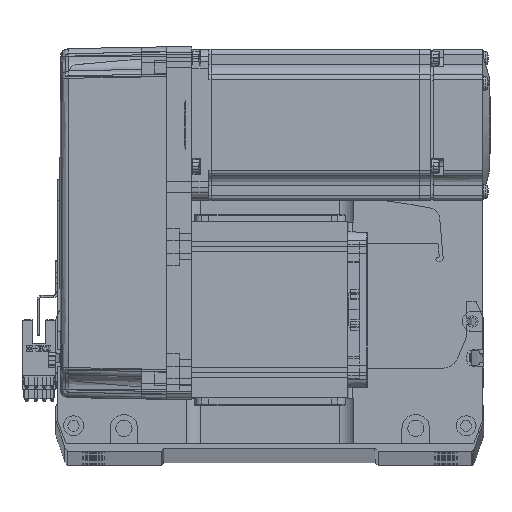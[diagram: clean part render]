
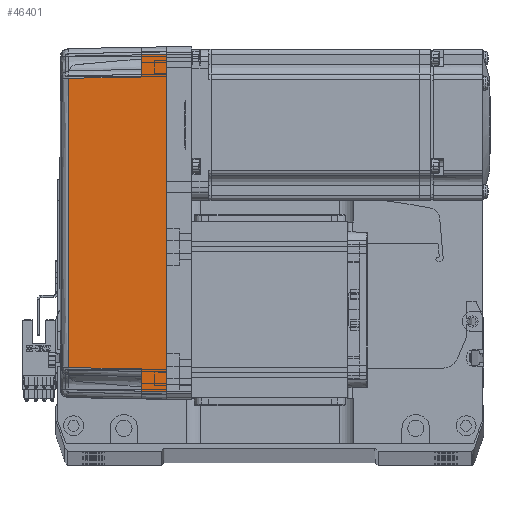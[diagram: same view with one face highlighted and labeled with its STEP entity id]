
A CAD part, top view. The second image highlights one B-rep face of the part: STEP entity #46401.
In plain terms, the highlighted planar face has unit normal (-0.018, 0, 1) as drawn and (0, 1, 0.017) by its records, which use the part's own axes.
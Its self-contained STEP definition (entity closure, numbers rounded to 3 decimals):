
#248 = CARTESIAN_POINT ( 'NONE',  ( -58., 35.825, 10. ) ) ;
#359 = VECTOR ( 'NONE', #30537, 1000. ) ;
#636 = VECTOR ( 'NONE', #17200, 1000. ) ;
#1147 = LINE ( 'NONE', #35178, #21853 ) ;
#7610 = DIRECTION ( 'NONE',  ( 0., 1., 0.017 ) ) ;
#8133 = VERTEX_POINT ( 'NONE', #52490 ) ;
#8681 = EDGE_LOOP ( 'NONE', ( #67156, #31544, #53689, #51427, #59297, #39355, #69633, #66362 ) ) ;
#8823 = CARTESIAN_POINT ( 'NONE',  ( 67.001, 36.001, -0.052 ) ) ;
#9792 = EDGE_CURVE ( 'NONE', #66177, #44427, #67448, .T. ) ;
#11372 = EDGE_CURVE ( 'NONE', #48660, #67683, #50978, .T. ) ;
#12010 = VECTOR ( 'NONE', #28049, 1000. ) ;
#12292 = EDGE_CURVE ( 'NONE', #67683, #66177, #56811, .T. ) ;
#12449 = CARTESIAN_POINT ( 'NONE',  ( 57.495, 35.32, 38.985 ) ) ;
#12965 = VECTOR ( 'NONE', #13341, 1000. ) ;
#13341 = DIRECTION ( 'NONE',  ( 0.017, 0.017, -1. ) ) ;
#13819 = EDGE_CURVE ( 'NONE', #34046, #67483, #53294, .T. ) ;
#15098 = LINE ( 'NONE', #8823, #71389 ) ;
#15273 = VERTEX_POINT ( 'NONE', #32347 ) ;
#16532 = CARTESIAN_POINT ( 'NONE',  ( -67., 36., 0. ) ) ;
#17200 = DIRECTION ( 'NONE',  ( 1., 0., 0. ) ) ;
#21853 = VECTOR ( 'NONE', #45873, 1000. ) ;
#23775 = CARTESIAN_POINT ( 'NONE',  ( 0., 36., 0. ) ) ;
#24552 = LINE ( 'NONE', #23775, #359 ) ;
#24803 = CARTESIAN_POINT ( 'NONE',  ( -57.495, 35.32, 38.985 ) ) ;
#25156 = CARTESIAN_POINT ( 'NONE',  ( 57.495, 35.32, 38.985 ) ) ;
#26394 = CARTESIAN_POINT ( 'NONE',  ( 57.495, 35.32, 38.985 ) ) ;
#28049 = DIRECTION ( 'NONE',  ( 0.017, -0.017, 1. ) ) ;
#29120 = AXIS2_PLACEMENT_3D ( 'NONE', #62507, #7610, #51658 ) ;
#30404 = EDGE_CURVE ( 'NONE', #67483, #48660, #1147, .T. ) ;
#30537 = DIRECTION ( 'NONE',  ( 1., 0., 0. ) ) ;
#31426 = CARTESIAN_POINT ( 'NONE',  ( -19.165, 35.316, 39.181 ) ) ;
#31544 = ORIENTED_EDGE ( 'NONE', *, *, #30404, .T. ) ;
#32347 = CARTESIAN_POINT ( 'NONE',  ( 66.826, 35.825, 10. ) ) ;
#34046 = VERTEX_POINT ( 'NONE', #58719 ) ;
#34553 = EDGE_CURVE ( 'NONE', #8133, #15273, #15098, .T. ) ;
#35178 = CARTESIAN_POINT ( 'NONE',  ( 70., 35.825, 10. ) ) ;
#36343 = DIRECTION ( 'NONE',  ( -0.017, -0.017, 1. ) ) ;
#39355 = ORIENTED_EDGE ( 'NONE', *, *, #66647, .T. ) ;
#39711 = DIRECTION ( 'NONE',  ( 0.017, -0.017, 1. ) ) ;
#43867 = LINE ( 'NONE', #61507, #636 ) ;
#44427 = VERTEX_POINT ( 'NONE', #46044 ) ;
#45873 = DIRECTION ( 'NONE',  ( 1., 0., 0. ) ) ;
#46044 = CARTESIAN_POINT ( 'NONE',  ( 58., 35.825, 10. ) ) ;
#46401 = ADVANCED_FACE ( 'NONE', ( #50614 ), #56962, .T. ) ;
#46507 = EDGE_CURVE ( 'NONE', #34046, #8133, #24552, .T. ) ;
#48660 = VERTEX_POINT ( 'NONE', #63760 ) ;
#50614 = FACE_OUTER_BOUND ( 'NONE', #8681, .T. ) ;
#50978 = LINE ( 'NONE', #248, #12010 ) ;
#51427 = ORIENTED_EDGE ( 'NONE', *, *, #12292, .T. ) ;
#51658 = DIRECTION ( 'NONE',  ( 0., -0.017, 1. ) ) ;
#52490 = CARTESIAN_POINT ( 'NONE',  ( 67., 36., 0. ) ) ;
#53294 = LINE ( 'NONE', #16532, #70614 ) ;
#53689 = ORIENTED_EDGE ( 'NONE', *, *, #11372, .T. ) ;
#56811 = B_SPLINE_CURVE_WITH_KNOTS ( 'NONE', 3,
 ( #70411, #31426, #59546, #26394 ),
 .UNSPECIFIED., .F., .F.,
 ( 4, 4 ),
 ( 0., 1. ),
 .UNSPECIFIED. ) ;
#56962 = PLANE ( 'NONE',  #29120 ) ;
#58719 = CARTESIAN_POINT ( 'NONE',  ( -67., 36., 0. ) ) ;
#59297 = ORIENTED_EDGE ( 'NONE', *, *, #9792, .T. ) ;
#59546 = CARTESIAN_POINT ( 'NONE',  ( 19.165, 35.316, 39.181 ) ) ;
#61507 = CARTESIAN_POINT ( 'NONE',  ( 70., 35.825, 10. ) ) ;
#62507 = CARTESIAN_POINT ( 'NONE',  ( 70., 36., 0. ) ) ;
#63760 = CARTESIAN_POINT ( 'NONE',  ( -58., 35.825, 10. ) ) ;
#66177 = VERTEX_POINT ( 'NONE', #12449 ) ;
#66362 = ORIENTED_EDGE ( 'NONE', *, *, #46507, .F. ) ;
#66447 = CARTESIAN_POINT ( 'NONE',  ( -66.826, 35.825, 10. ) ) ;
#66647 = EDGE_CURVE ( 'NONE', #44427, #15273, #43867, .T. ) ;
#67156 = ORIENTED_EDGE ( 'NONE', *, *, #13819, .T. ) ;
#67448 = LINE ( 'NONE', #25156, #12965 ) ;
#67483 = VERTEX_POINT ( 'NONE', #66447 ) ;
#67683 = VERTEX_POINT ( 'NONE', #24803 ) ;
#69633 = ORIENTED_EDGE ( 'NONE', *, *, #34553, .F. ) ;
#70411 = CARTESIAN_POINT ( 'NONE',  ( -57.495, 35.32, 38.985 ) ) ;
#70614 = VECTOR ( 'NONE', #39711, 1000. ) ;
#71389 = VECTOR ( 'NONE', #36343, 1000. ) ;
